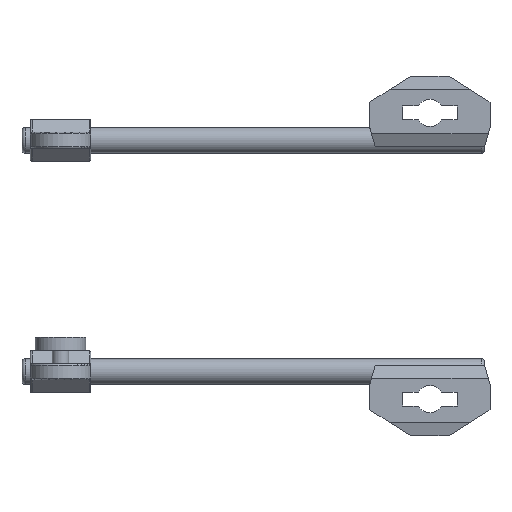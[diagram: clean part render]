
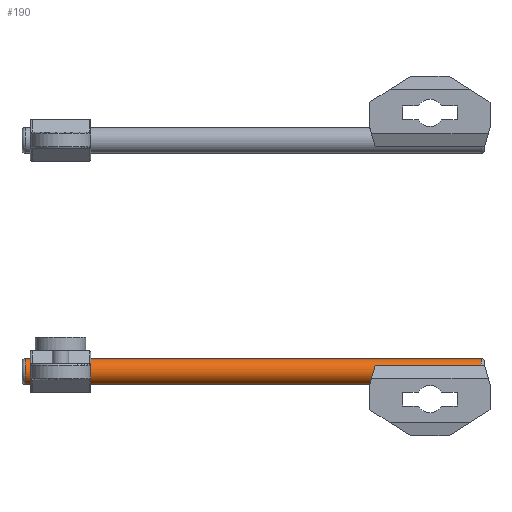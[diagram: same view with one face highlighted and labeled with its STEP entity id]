
A CAD part, left-side view. The second image highlights one B-rep face of the part: STEP entity #190.
In plain terms, the highlighted cylindrical face has radius 6.35 mm (diameter 12.7 mm), a partial arc.
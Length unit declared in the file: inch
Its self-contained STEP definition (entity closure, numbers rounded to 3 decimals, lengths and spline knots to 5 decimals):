
#6=CARTESIAN_POINT('',(0.,-4.44,0.));
#7=DIRECTION('',(0.,-1.,0.));
#8=DIRECTION('',(0.,0.,1.));
#9=AXIS2_PLACEMENT_3D('',#6,#7,#8);
#31=DIRECTION('',(0.,1.,0.));
#32=VECTOR('',#31,8.88);
#33=CARTESIAN_POINT('',(0.,-4.44,-0.25));
#34=LINE('',#33,#32);
#50=CARTESIAN_POINT('',(0.,4.44,0.));
#51=DIRECTION('',(0.,1.,0.));
#52=DIRECTION('',(0.,0.,-1.));
#53=AXIS2_PLACEMENT_3D('',#50,#51,#52);
#65=DIRECTION('',(0.,1.,0.));
#66=VECTOR('',#65,8.88);
#67=CARTESIAN_POINT('',(0.,-4.44,0.25));
#68=LINE('',#67,#66);
#73=CARTESIAN_POINT('',(0.,-4.44,0.25));
#75=VERTEX_POINT('',#73);
#77=CARTESIAN_POINT('',(0.,-4.44,-0.25));
#78=CARTESIAN_POINT('',(0.,4.44,-0.25));
#79=VERTEX_POINT('',#77);
#80=VERTEX_POINT('',#78);
#83=CARTESIAN_POINT('',(0.,4.44,0.25));
#84=VERTEX_POINT('',#83);
#179=CARTESIAN_POINT('',(0.,4.5,0.));
#180=DIRECTION('',(0.,-1.,0.));
#181=DIRECTION('',(0.,0.,-1.));
#182=AXIS2_PLACEMENT_3D('',#179,#180,#181);
#183=CYLINDRICAL_SURFACE('',#182,0.25);
#184=ORIENTED_EDGE('',*,*,#135,.F.);
#185=ORIENTED_EDGE('',*,*,#92,.T.);
#186=ORIENTED_EDGE('',*,*,#132,.T.);
#187=ORIENTED_EDGE('',*,*,#164,.T.);
#188=EDGE_LOOP('',(#184,#185,#186,#187));
#189=FACE_OUTER_BOUND('',#188,.F.);
#10=CIRCLE('',#9,0.25);
#54=CIRCLE('',#53,0.25);
#92=EDGE_CURVE('',#75,#79,#10,.T.);
#132=EDGE_CURVE('',#79,#80,#34,.T.);
#135=EDGE_CURVE('',#75,#84,#68,.T.);
#164=EDGE_CURVE('',#80,#84,#54,.T.);
#190=ADVANCED_FACE('',(#189),#183,.T.);
